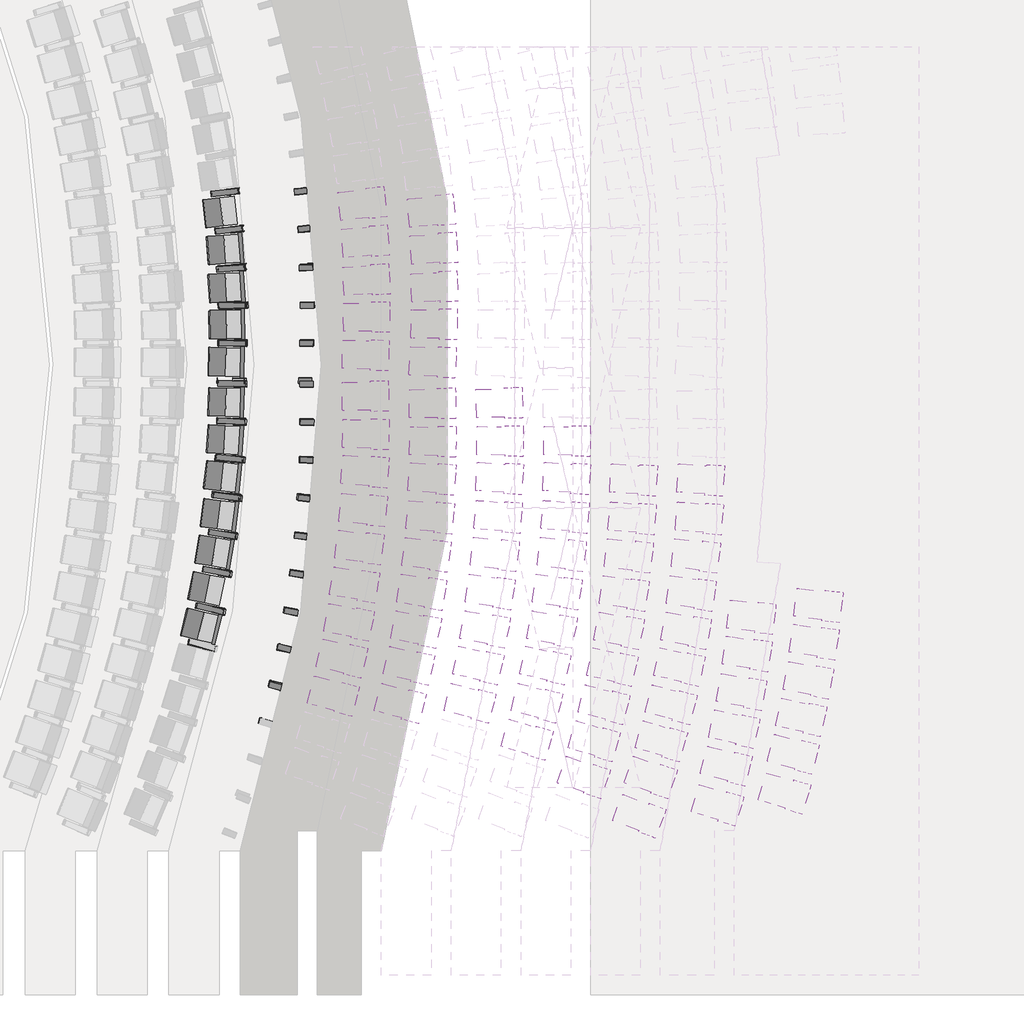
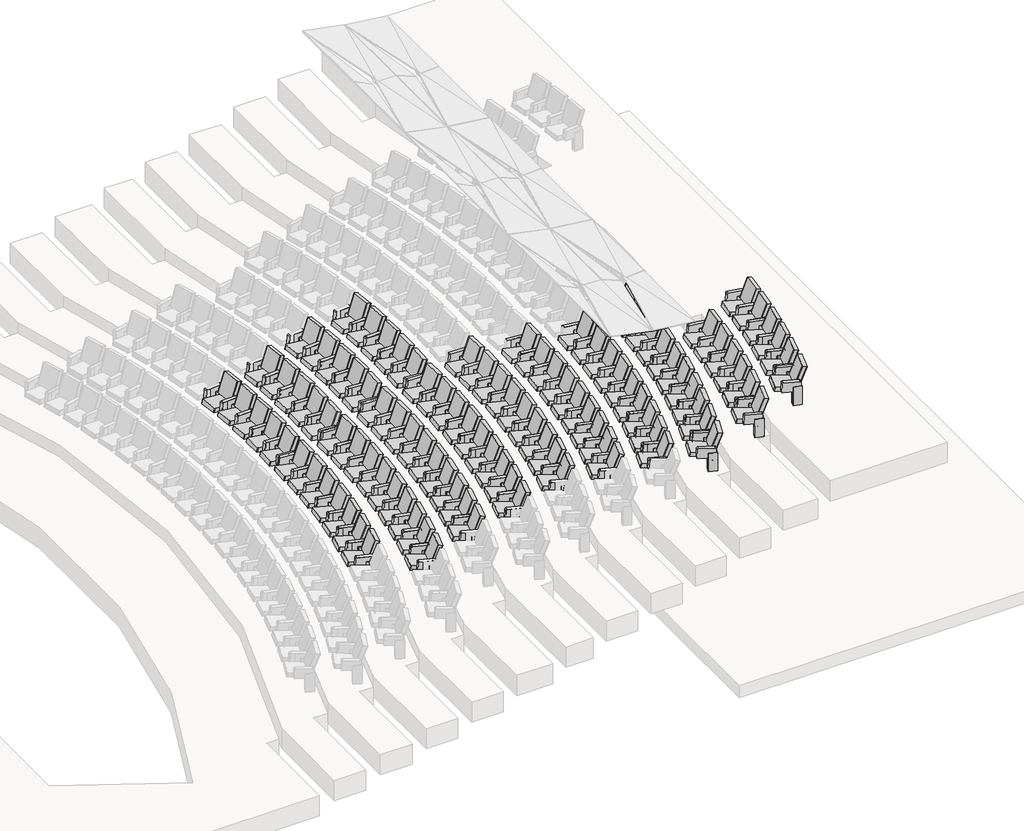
# One storey, part 3 of 5: 103 furniture elements.
"""IFC4 building model written with IfcOpenShell, lengths in millimetres."""

from ifc_helpers import new_model, si_unit, origin, place, context, project, spatial, transform, mapped, element, save
from components import flex_6035_revit_flex_6035_revit_dbd431f0, flex_6035_revit_flex_6035_revit_8256f512

model = new_model("IFC4")

# Units and contexts
model_context = context("Model", 3, world=origin())
ifc_project = project(units=[si_unit("LENGTHUNIT", "METRE", prefix="MILLI")], contexts=[model_context])

# Site, building, storey
site = spatial("IfcSite", under=ifc_project)
building = spatial("IfcBuilding", under=site)
storey = spatial("IfcBuildingStorey", under=building, Name="0 WYSOKI PARTER", Elevation=0.0)

# Furniture
placement = place(None, origin())
flex_6035_revit_flex_6035_revit_shape = flex_6035_revit_flex_6035_revit_dbd431f0(model_context)
element("IfcFurniture", 1, ObjectType="flex_6035 revit : flex_6035 revit", at=placement, inside=storey, context=model_context, shape_type="MappedRepresentation", body=[
    mapped(flex_6035_revit_flex_6035_revit_shape, transform((144010.9490745, 53494.2841804, 791.0), x_axis=(-0.23171197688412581, -0.972784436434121, 0.0), y_axis=(0.972784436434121, -0.23171197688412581, 0.0), z_axis=(0.0, 0.0, 1.0))),
])
element("IfcFurniture", 2, ObjectType="flex_6035 revit : flex_6035 revit", at=placement, inside=storey, context=model_context, shape_type="MappedRepresentation", body=[
    mapped(flex_6035_revit_flex_6035_revit_shape, transform((144115.2846599, 54048.7079398, 791.0), x_axis=(-0.1979858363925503, -0.9802048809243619, 0.0), y_axis=(0.9802048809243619, -0.1979858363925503, 0.0), z_axis=(0.0, 0.0, 1.0))),
])
element("IfcFurniture", 3, ObjectType="flex_6035 revit : flex_6035 revit", at=placement, inside=storey, context=model_context, shape_type="MappedRepresentation", body=[
    mapped(flex_6035_revit_flex_6035_revit_shape, transform((144210.2871399, 54604.5552099, 791.0), x_axis=(-0.1640235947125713, -0.9864564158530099, 0.0), y_axis=(0.9864564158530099, -0.1640235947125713, 0.0), z_axis=(0.0, 0.0, 1.0))),
])
element("IfcFurniture", 4, ObjectType="flex_6035 revit : flex_6035 revit", at=placement, inside=storey, context=model_context, shape_type="MappedRepresentation", body=[
    mapped(flex_6035_revit_flex_6035_revit_shape, transform((144287.5351434, 55163.2995157, 791.0), x_axis=(-0.12986575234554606, -0.991531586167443, 0.0), y_axis=(0.991531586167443, -0.12986575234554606, 0.0), z_axis=(0.0, 0.0, 1.0))),
])
element("IfcFurniture", 5, ObjectType="flex_6035 revit : flex_6035 revit", at=placement, inside=storey, context=model_context, shape_type="MappedRepresentation", body=[
    mapped(flex_6035_revit_flex_6035_revit_shape, transform((144369.8366359, 56288.5683101, 791.0), x_axis=(-0.06112638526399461, -0.9981300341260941, 0.0), y_axis=(0.9981300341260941, -0.06112638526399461, 0.0), z_axis=(0.0, 0.0, 1.0))),
])
element("IfcFurniture", 6, ObjectType="flex_6035 revit : flex_6035 revit", at=placement, inside=storey, context=model_context, shape_type="MappedRepresentation", body=[
    mapped(flex_6035_revit_flex_6035_revit_shape, transform((144335.3537239, 55734.5150126, 791.0), x_axis=(-0.11254136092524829, -0.9936470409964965, 0.0), y_axis=(0.9936470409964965, -0.11254136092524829, 0.0), z_axis=(0.0, 0.0, 1.0))),
])
element("IfcFurniture", 7, ObjectType="flex_6035 revit : flex_6035 revit", at=placement, inside=storey, context=model_context, shape_type="MappedRepresentation", body=[
    mapped(flex_6035_revit_flex_6035_revit_shape, transform((144385.6765789, 56852.4831868, 791.0), x_axis=(-0.026626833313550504, -0.9996454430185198, 0.0), y_axis=(0.9996454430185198, -0.026626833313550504, 0.0), z_axis=(0.0, 0.0, 1.0))),
])
element("IfcFurniture", 8, ObjectType="flex_6035 revit : flex_6035 revit", at=placement, inside=storey, context=model_context, shape_type="MappedRepresentation", body=[
    mapped(flex_6035_revit_flex_6035_revit_shape, transform((144853.4315415, 52376.4737885, 1074.0), x_axis=(-0.2725137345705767, -0.9621518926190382, 0.0), y_axis=(0.9621518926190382, -0.2725137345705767, 0.0), z_axis=(0.0, 0.0, 1.0))),
])
element("IfcFurniture", 9, ObjectType="flex_6035 revit : flex_6035 revit", at=placement, inside=storey, context=model_context, shape_type="MappedRepresentation", body=[
    mapped(flex_6035_revit_flex_6035_revit_shape, transform((145101.3031564, 53476.9420214, 1074.0), x_axis=(-0.2054618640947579, -0.9786651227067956, 0.0), y_axis=(0.9786651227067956, -0.2054618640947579, 0.0), z_axis=(0.0, 0.0, 1.0))),
])
element("IfcFurniture", 10, ObjectType="flex_6035 revit : flex_6035 revit", at=placement, inside=storey, context=model_context, shape_type="MappedRepresentation", body=[
    mapped(flex_6035_revit_flex_6035_revit_shape, transform((145190.6879192, 54033.9716288, 1074.0), x_axis=(-0.17154832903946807, -0.9851757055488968, 0.0), y_axis=(0.9851757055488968, -0.17154832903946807, 0.0), z_axis=(0.0, 0.0, 1.0))),
])
element("IfcFurniture", 11, ObjectType="flex_6035 revit : flex_6035 revit", at=placement, inside=storey, context=model_context, shape_type="MappedRepresentation", body=[
    mapped(flex_6035_revit_flex_6035_revit_shape, transform((145270.7046634, 54592.1731871, 1074.0), x_axis=(-0.13743021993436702, -0.9905114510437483, 0.0), y_axis=(0.9905114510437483, -0.13743021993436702, 0.0), z_axis=(0.0, 0.0, 1.0))),
])
element("IfcFurniture", 12, ObjectType="flex_6035 revit : flex_6035 revit", at=placement, inside=storey, context=model_context, shape_type="MappedRepresentation", body=[
    mapped(flex_6035_revit_flex_6035_revit_shape, transform((145332.8954298, 55152.7931669, 1074.0), x_axis=(-0.10314822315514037, -0.9946659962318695, 0.0), y_axis=(0.9946659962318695, -0.10314822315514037, 0.0), z_axis=(0.0, 0.0, 1.0))),
])
element("IfcFurniture", 13, ObjectType="flex_6035 revit : flex_6035 revit", at=placement, inside=storey, context=model_context, shape_type="MappedRepresentation", body=[
    mapped(flex_6035_revit_flex_6035_revit_shape, transform((145384.899296, 56279.8685829, 1074.0), x_axis=(-0.03425624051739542, -0.9994130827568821, 0.0), y_axis=(0.9994130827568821, -0.03425624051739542, 0.0), z_axis=(0.0, 0.0, 1.0))),
])
element("IfcFurniture", 14, ObjectType="flex_6035 revit : flex_6035 revit", at=placement, inside=storey, context=model_context, shape_type="MappedRepresentation", body=[
    mapped(flex_6035_revit_flex_6035_revit_shape, transform((145365.3319673, 55725.0882234, 1074.0), x_axis=(-0.08577319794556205, -0.9963146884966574, 0.0), y_axis=(0.9963146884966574, -0.08577319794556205, 0.0), z_axis=(0.0, 0.0, 1.0))),
])
element("IfcFurniture", 15, ObjectType="flex_6035 revit : flex_6035 revit", at=placement, inside=storey, context=model_context, shape_type="MappedRepresentation", body=[
    mapped(flex_6035_revit_flex_6035_revit_shape, transform((144989.6153598, 52936.7769492, 1074.0), x_axis=(-0.23876910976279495, -0.9710763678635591, 0.0), y_axis=(0.9710763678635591, -0.23876910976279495, 0.0), z_axis=(0.0, 0.0, 1.0))),
])
element("IfcFurniture", 16, ObjectType="flex_6035 revit : flex_6035 revit", at=placement, inside=storey, context=model_context, shape_type="MappedRepresentation", body=[
    mapped(flex_6035_revit_flex_6035_revit_shape, transform((145385.5651411, 56844.0054888, 1074.0), x_axis=(0.0002715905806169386, -0.9999999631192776, 0.0), y_axis=(0.9999999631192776, 0.0002715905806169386, 0.0), z_axis=(0.0, 0.0, 1.0))),
])
element("IfcFurniture", 17, ObjectType="flex_6035 revit : flex_6035 revit", at=placement, inside=storey, context=model_context, shape_type="MappedRepresentation", body=[
    mapped(flex_6035_revit_flex_6035_revit_shape, transform((145902.85845, 52471.2875369, 1367.0), x_axis=(-0.2618299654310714, -0.9651140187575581, 0.0), y_axis=(0.9651140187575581, -0.2618299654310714, 0.0), z_axis=(0.0, 0.0, 1.0))),
])
element("IfcFurniture", 18, ObjectType="flex_6035 revit : flex_6035 revit", at=placement, inside=storey, context=model_context, shape_type="MappedRepresentation", body=[
    mapped(flex_6035_revit_flex_6035_revit_shape, transform((146138.5143483, 53574.4361972, 1367.0), x_axis=(-0.19459913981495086, -0.9808828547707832, 0.0), y_axis=(0.9808828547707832, -0.19459913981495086, 0.0), z_axis=(0.0, 0.0, 1.0))),
])
element("IfcFurniture", 19, ObjectType="flex_6035 revit : flex_6035 revit", at=placement, inside=storey, context=model_context, shape_type="MappedRepresentation", body=[
    mapped(flex_6035_revit_flex_6035_revit_shape, transform((146221.7180371, 54132.422546, 1367.0), x_axis=(-0.16061550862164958, -0.9870170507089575, 0.0), y_axis=(0.9870170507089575, -0.16061550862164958, 0.0), z_axis=(0.0, 0.0, 1.0))),
])
element("IfcFurniture", 20, ObjectType="flex_6035 revit : flex_6035 revit", at=placement, inside=storey, context=model_context, shape_type="MappedRepresentation", body=[
    mapped(flex_6035_revit_flex_6035_revit_shape, transform((146295.5412902, 54691.4769139, 1367.0), x_axis=(-0.12644034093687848, -0.9919742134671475, 0.0), y_axis=(0.9919742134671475, -0.12644034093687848, 0.0), z_axis=(0.0, 0.0, 1.0))),
])
element("IfcFurniture", 21, ObjectType="flex_6035 revit : flex_6035 revit", at=placement, inside=storey, context=model_context, shape_type="MappedRepresentation", body=[
    mapped(flex_6035_revit_flex_6035_revit_shape, transform((146351.5128488, 55252.7519248, 1367.0), x_axis=(-0.09211439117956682, -0.9957484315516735, 0.0), y_axis=(0.9957484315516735, -0.09211439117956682, 0.0), z_axis=(0.0, 0.0, 1.0))),
])
element("IfcFurniture", 22, ObjectType="flex_6035 revit : flex_6035 revit", at=placement, inside=storey, context=model_context, shape_type="MappedRepresentation", body=[
    mapped(flex_6035_revit_flex_6035_revit_shape, transform((146391.0180522, 56380.3346199, 1367.0), x_axis=(-0.02317401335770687, -0.9997314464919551, 0.0), y_axis=(0.9997314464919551, -0.02317401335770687, 0.0), z_axis=(0.0, 0.0, 1.0))),
])
element("IfcFurniture", 23, ObjectType="flex_6035 revit : flex_6035 revit", at=placement, inside=storey, context=model_context, shape_type="MappedRepresentation", body=[
    mapped(flex_6035_revit_flex_6035_revit_shape, transform((146377.60257, 55825.3714207, 1367.0), x_axis=(-0.07472215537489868, -0.997204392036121, 0.0), y_axis=(0.997204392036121, -0.07472215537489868, 0.0), z_axis=(0.0, 0.0, 1.0))),
])
element("IfcFurniture", 24, ObjectType="flex_6035 revit : flex_6035 revit", at=placement, inside=storey, context=model_context, shape_type="MappedRepresentation", body=[
    mapped(flex_6035_revit_flex_6035_revit_shape, transform((146032.8220254, 53033.0660816, 1367.0), x_axis=(-0.22798847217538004, -0.973663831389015, 0.0), y_axis=(0.973663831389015, -0.22798847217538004, 0.0), z_axis=(0.0, 0.0, 1.0))),
])
element("IfcFurniture", 25, ObjectType="flex_6035 revit : flex_6035 revit", at=placement, inside=storey, context=model_context, shape_type="MappedRepresentation", body=[
    mapped(flex_6035_revit_flex_6035_revit_shape, transform((146385.42948, 56944.4442367, 1367.0), x_axis=(0.011358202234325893, -0.9999354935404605, 0.0), y_axis=(0.9999354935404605, 0.011358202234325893, 0.0), z_axis=(0.0, 0.0, 1.0))),
])
element("IfcFurniture", 26, ObjectType="flex_6035 revit : flex_6035 revit", at=placement, inside=storey, context=model_context, shape_type="MappedRepresentation", body=[
    mapped(flex_6035_revit_flex_6035_revit_shape, transform((146903.0115337, 52362.9838282, 1668.0), x_axis=(-0.2618299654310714, -0.9651140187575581, 0.0), y_axis=(0.9651140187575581, -0.2618299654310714, 0.0), z_axis=(0.0, 0.0, 1.0))),
])
element("IfcFurniture", 27, ObjectType="flex_6035 revit : flex_6035 revit", at=placement, inside=storey, context=model_context, shape_type="MappedRepresentation", body=[
    mapped(flex_6035_revit_flex_6035_revit_shape, transform((147138.667432, 53466.1324885, 1668.0), x_axis=(-0.19459913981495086, -0.9808828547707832, 0.0), y_axis=(0.9808828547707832, -0.19459913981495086, 0.0), z_axis=(0.0, 0.0, 1.0))),
])
element("IfcFurniture", 28, ObjectType="flex_6035 revit : flex_6035 revit", at=placement, inside=storey, context=model_context, shape_type="MappedRepresentation", body=[
    mapped(flex_6035_revit_flex_6035_revit_shape, transform((147221.8711209, 54024.1188373, 1668.0), x_axis=(-0.16061550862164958, -0.9870170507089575, 0.0), y_axis=(0.9870170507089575, -0.16061550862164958, 0.0), z_axis=(0.0, 0.0, 1.0))),
])
element("IfcFurniture", 29, ObjectType="flex_6035 revit : flex_6035 revit", at=placement, inside=storey, context=model_context, shape_type="MappedRepresentation", body=[
    mapped(flex_6035_revit_flex_6035_revit_shape, transform((147295.6943739, 54583.1732052, 1668.0), x_axis=(-0.12644034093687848, -0.9919742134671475, 0.0), y_axis=(0.9919742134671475, -0.12644034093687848, 0.0), z_axis=(0.0, 0.0, 1.0))),
])
element("IfcFurniture", 30, ObjectType="flex_6035 revit : flex_6035 revit", at=placement, inside=storey, context=model_context, shape_type="MappedRepresentation", body=[
    mapped(flex_6035_revit_flex_6035_revit_shape, transform((147351.6659326, 55144.4482161, 1668.0), x_axis=(-0.09211439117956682, -0.9957484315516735, 0.0), y_axis=(0.9957484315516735, -0.09211439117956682, 0.0), z_axis=(0.0, 0.0, 1.0))),
])
element("IfcFurniture", 31, ObjectType="flex_6035 revit : flex_6035 revit", at=placement, inside=storey, context=model_context, shape_type="MappedRepresentation", body=[
    mapped(flex_6035_revit_flex_6035_revit_shape, transform((147391.171136, 56272.0309112, 1668.0), x_axis=(-0.02317401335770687, -0.9997314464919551, 0.0), y_axis=(0.9997314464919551, -0.02317401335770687, 0.0), z_axis=(0.0, 0.0, 1.0))),
])
element("IfcFurniture", 32, ObjectType="flex_6035 revit : flex_6035 revit", at=placement, inside=storey, context=model_context, shape_type="MappedRepresentation", body=[
    mapped(flex_6035_revit_flex_6035_revit_shape, transform((147377.7556538, 55717.067712, 1668.0), x_axis=(-0.07472215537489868, -0.997204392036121, 0.0), y_axis=(0.997204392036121, -0.07472215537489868, 0.0), z_axis=(0.0, 0.0, 1.0))),
])
element("IfcFurniture", 33, ObjectType="flex_6035 revit : flex_6035 revit", at=placement, inside=storey, context=model_context, shape_type="MappedRepresentation", body=[
    mapped(flex_6035_revit_flex_6035_revit_shape, transform((147032.9751092, 52924.7623728, 1668.0), x_axis=(-0.22798847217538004, -0.973663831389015, 0.0), y_axis=(0.973663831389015, -0.22798847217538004, 0.0), z_axis=(0.0, 0.0, 1.0))),
])
element("IfcFurniture", 34, ObjectType="flex_6035 revit : flex_6035 revit", at=placement, inside=storey, context=model_context, shape_type="MappedRepresentation", body=[
    mapped(flex_6035_revit_flex_6035_revit_shape, transform((147385.5825637, 56836.140528, 1668.0), x_axis=(0.011358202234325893, -0.9999354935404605, 0.0), y_axis=(0.9999354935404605, 0.011358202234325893, 0.0), z_axis=(0.0, 0.0, 1.0))),
])
element("IfcFurniture", 35, ObjectType="flex_6035 revit : flex_6035 revit", at=placement, inside=storey, context=model_context, shape_type="MappedRepresentation", body=[
    mapped(flex_6035_revit_flex_6035_revit_shape, transform((147941.9913426, 52364.7237388, 1977.0), x_axis=(-0.2528925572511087, -0.9674943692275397, 0.0), y_axis=(0.9674943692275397, -0.2528925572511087, 0.0), z_axis=(0.0, 0.0, 1.0))),
])
element("IfcFurniture", 36, ObjectType="flex_6035 revit : flex_6035 revit", at=placement, inside=storey, context=model_context, shape_type="MappedRepresentation", body=[
    mapped(flex_6035_revit_flex_6035_revit_shape, transform((148167.4342885, 53470.0047652, 1977.0), x_axis=(-0.18551876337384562, -0.9826407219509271, 0.0), y_axis=(0.9826407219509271, -0.18551876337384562, 0.0), z_axis=(0.0, 0.0, 1.0))),
])
element("IfcFurniture", 37, ObjectType="flex_6035 revit : flex_6035 revit", at=placement, inside=storey, context=model_context, shape_type="MappedRepresentation", body=[
    mapped(flex_6035_revit_flex_6035_revit_shape, transform((148245.4736782, 54028.7367877, 1977.0), x_axis=(-0.15147985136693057, -0.9884603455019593, 0.0), y_axis=(0.9884603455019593, -0.15147985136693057, 0.0), z_axis=(0.0, 0.0, 1.0))),
])
element("IfcFurniture", 38, ObjectType="flex_6035 revit : flex_6035 revit", at=placement, inside=storey, context=model_context, shape_type="MappedRepresentation", body=[
    mapped(flex_6035_revit_flex_6035_revit_shape, transform((148314.1231553, 54588.4500252, 1977.0), x_axis=(-0.1172602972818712, -0.9931012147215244, 0.0), y_axis=(0.9931012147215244, -0.1172602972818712, 0.0), z_axis=(0.0, 0.0, 1.0))),
])
element("IfcFurniture", 39, ObjectType="flex_6035 revit : flex_6035 revit", at=placement, inside=storey, context=model_context, shape_type="MappedRepresentation", body=[
    mapped(flex_6035_revit_flex_6035_revit_shape, transform((148364.9011631, 55150.2187028, 1977.0), x_axis=(-0.08290090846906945, -0.9965577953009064, 0.0), y_axis=(0.9965577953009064, -0.08290090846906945, 0.0), z_axis=(0.0, 0.0, 1.0))),
])
element("IfcFurniture", 40, ObjectType="flex_6035 revit : flex_6035 revit", at=placement, inside=storey, context=model_context, shape_type="MappedRepresentation", body=[
    mapped(flex_6035_revit_flex_6035_revit_shape, transform((148393.9758167, 56278.1185476, 1977.0), x_axis=(-0.013926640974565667, -0.999903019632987, 0.0), y_axis=(0.999903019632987, -0.013926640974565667, 0.0), z_axis=(0.0, 0.0, 1.0))),
])
element("IfcFurniture", 41, ObjectType="flex_6035 revit : flex_6035 revit", at=placement, inside=storey, context=model_context, shape_type="MappedRepresentation", body=[
    mapped(flex_6035_revit_flex_6035_revit_shape, transform((148385.693688, 55723.0550071, 1977.0), x_axis=(-0.0654959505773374, -0.9978528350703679, 0.0), y_axis=(0.9978528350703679, -0.0654959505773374, 0.0), z_axis=(0.0, 0.0, 1.0))),
])
element("IfcFurniture", 42, ObjectType="flex_6035 revit : flex_6035 revit", at=placement, inside=storey, context=model_context, shape_type="MappedRepresentation", body=[
    mapped(flex_6035_revit_flex_6035_revit_shape, transform((148066.7535454, 52927.6802708, 1977.0), x_axis=(-0.21897343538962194, -0.9757308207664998, 0.0), y_axis=(0.9757308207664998, -0.21897343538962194, 0.0), z_axis=(0.0, 0.0, 1.0))),
])
element("IfcFurniture", 43, ObjectType="flex_6035 revit : flex_6035 revit", at=placement, inside=storey, context=model_context, shape_type="MappedRepresentation", body=[
    mapped(flex_6035_revit_flex_6035_revit_shape, transform((148383.1701098, 56842.1523486, 1977.0), x_axis=(0.02060598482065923, -0.999787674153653, 0.0), y_axis=(0.999787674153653, 0.02060598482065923, 0.0), z_axis=(0.0, 0.0, 1.0))),
])
element("IfcFurniture", 44, ObjectType="flex_6035 revit : flex_6035 revit", at=placement, inside=storey, context=model_context, shape_type="MappedRepresentation", body=[
    mapped(flex_6035_revit_flex_6035_revit_shape, transform((148794.8587046, 51820.069524, 2293.0), x_axis=(-0.2861470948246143, -0.9581857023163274, 0.0), y_axis=(0.9581857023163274, -0.2861470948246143, 0.0), z_axis=(0.0, 0.0, 1.0))),
])
element("IfcFurniture", 45, ObjectType="flex_6035 revit : flex_6035 revit", at=placement, inside=storey, context=model_context, shape_type="MappedRepresentation", body=[
    mapped(flex_6035_revit_flex_6035_revit_shape, transform((148941.0379663, 52364.7237388, 2293.0), x_axis=(-0.2528925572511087, -0.9674943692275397, 0.0), y_axis=(0.9674943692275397, -0.2528925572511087, 0.0), z_axis=(0.0, 0.0, 1.0))),
])
element("IfcFurniture", 46, ObjectType="flex_6035 revit : flex_6035 revit", at=placement, inside=storey, context=model_context, shape_type="MappedRepresentation", body=[
    mapped(flex_6035_revit_flex_6035_revit_shape, transform((149166.4809121, 53470.0047652, 2293.0), x_axis=(-0.18551876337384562, -0.9826407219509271, 0.0), y_axis=(0.9826407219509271, -0.18551876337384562, 0.0), z_axis=(0.0, 0.0, 1.0))),
])
element("IfcFurniture", 47, ObjectType="flex_6035 revit : flex_6035 revit", at=placement, inside=storey, context=model_context, shape_type="MappedRepresentation", body=[
    mapped(flex_6035_revit_flex_6035_revit_shape, transform((149244.5203018, 54028.7367877, 2293.0), x_axis=(-0.15147985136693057, -0.9884603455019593, 0.0), y_axis=(0.9884603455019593, -0.15147985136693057, 0.0), z_axis=(0.0, 0.0, 1.0))),
])
element("IfcFurniture", 48, ObjectType="flex_6035 revit : flex_6035 revit", at=placement, inside=storey, context=model_context, shape_type="MappedRepresentation", body=[
    mapped(flex_6035_revit_flex_6035_revit_shape, transform((149313.1697789, 54588.4500252, 2293.0), x_axis=(-0.1172602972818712, -0.9931012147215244, 0.0), y_axis=(0.9931012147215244, -0.1172602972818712, 0.0), z_axis=(0.0, 0.0, 1.0))),
])
element("IfcFurniture", 49, ObjectType="flex_6035 revit : flex_6035 revit", at=placement, inside=storey, context=model_context, shape_type="MappedRepresentation", body=[
    mapped(flex_6035_revit_flex_6035_revit_shape, transform((149363.9477868, 55150.2187028, 2293.0), x_axis=(-0.08290090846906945, -0.9965577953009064, 0.0), y_axis=(0.9965577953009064, -0.08290090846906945, 0.0), z_axis=(0.0, 0.0, 1.0))),
])
element("IfcFurniture", 50, ObjectType="flex_6035 revit : flex_6035 revit", at=placement, inside=storey, context=model_context, shape_type="MappedRepresentation", body=[
    mapped(flex_6035_revit_flex_6035_revit_shape, transform((149393.0224403, 56278.1185476, 2293.0), x_axis=(-0.013926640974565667, -0.999903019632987, 0.0), y_axis=(0.999903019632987, -0.013926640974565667, 0.0), z_axis=(0.0, 0.0, 1.0))),
])
element("IfcFurniture", 51, ObjectType="flex_6035 revit : flex_6035 revit", at=placement, inside=storey, context=model_context, shape_type="MappedRepresentation", body=[
    mapped(flex_6035_revit_flex_6035_revit_shape, transform((149384.7403116, 55723.0550071, 2293.0), x_axis=(-0.0654959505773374, -0.9978528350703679, 0.0), y_axis=(0.9978528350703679, -0.0654959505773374, 0.0), z_axis=(0.0, 0.0, 1.0))),
])
element("IfcFurniture", 52, ObjectType="flex_6035 revit : flex_6035 revit", at=placement, inside=storey, context=model_context, shape_type="MappedRepresentation", body=[
    mapped(flex_6035_revit_flex_6035_revit_shape, transform((149065.800169, 52927.6802708, 2293.0), x_axis=(-0.21897343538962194, -0.9757308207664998, 0.0), y_axis=(0.9757308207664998, -0.21897343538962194, 0.0), z_axis=(0.0, 0.0, 1.0))),
])
element("IfcFurniture", 53, ObjectType="flex_6035 revit : flex_6035 revit", at=placement, inside=storey, context=model_context, shape_type="MappedRepresentation", body=[
    mapped(flex_6035_revit_flex_6035_revit_shape, transform((149638.6681206, 51255.6715035, 2616.0), x_axis=(-0.31906039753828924, -0.947734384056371, 0.0), y_axis=(0.947734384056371, -0.31906039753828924, 0.0), z_axis=(0.0, 0.0, 1.0))),
])
element("IfcFurniture", 54, ObjectType="flex_6035 revit : flex_6035 revit", at=placement, inside=storey, context=model_context, shape_type="MappedRepresentation", body=[
    mapped(flex_6035_revit_flex_6035_revit_shape, transform((149794.610182, 51797.776402, 2616.0), x_axis=(-0.2861470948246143, -0.9581857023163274, 0.0), y_axis=(0.9581857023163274, -0.2861470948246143, 0.0), z_axis=(0.0, 0.0, 1.0))),
])
element("IfcFurniture", 55, ObjectType="flex_6035 revit : flex_6035 revit", at=placement, inside=storey, context=model_context, shape_type="MappedRepresentation", body=[
    mapped(flex_6035_revit_flex_6035_revit_shape, transform((149940.7894437, 52342.4306167, 2616.0), x_axis=(-0.2528925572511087, -0.9674943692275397, 0.0), y_axis=(0.9674943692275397, -0.2528925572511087, 0.0), z_axis=(0.0, 0.0, 1.0))),
])
element("IfcFurniture", 56, ObjectType="flex_6035 revit : flex_6035 revit", at=placement, inside=storey, context=model_context, shape_type="MappedRepresentation", body=[
    mapped(flex_6035_revit_flex_6035_revit_shape, transform((150166.2323896, 53447.7116431, 2616.0), x_axis=(-0.18551876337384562, -0.9826407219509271, 0.0), y_axis=(0.9826407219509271, -0.18551876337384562, 0.0), z_axis=(0.0, 0.0, 1.0))),
])
element("IfcFurniture", 57, ObjectType="flex_6035 revit : flex_6035 revit", at=placement, inside=storey, context=model_context, shape_type="MappedRepresentation", body=[
    mapped(flex_6035_revit_flex_6035_revit_shape, transform((150244.2717793, 54006.4436656, 2616.0), x_axis=(-0.15147985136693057, -0.9884603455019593, 0.0), y_axis=(0.9884603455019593, -0.15147985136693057, 0.0), z_axis=(0.0, 0.0, 1.0))),
])
element("IfcFurniture", 58, ObjectType="flex_6035 revit : flex_6035 revit", at=placement, inside=storey, context=model_context, shape_type="MappedRepresentation", body=[
    mapped(flex_6035_revit_flex_6035_revit_shape, transform((150312.9212564, 54566.1569031, 2616.0), x_axis=(-0.1172602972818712, -0.9931012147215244, 0.0), y_axis=(0.9931012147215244, -0.1172602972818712, 0.0), z_axis=(0.0, 0.0, 1.0))),
])
element("IfcFurniture", 59, ObjectType="flex_6035 revit : flex_6035 revit", at=placement, inside=storey, context=model_context, shape_type="MappedRepresentation", body=[
    mapped(flex_6035_revit_flex_6035_revit_shape, transform((150363.6992642, 55127.9255808, 2616.0), x_axis=(-0.08290090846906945, -0.9965577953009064, 0.0), y_axis=(0.9965577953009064, -0.08290090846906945, 0.0), z_axis=(0.0, 0.0, 1.0))),
])
element("IfcFurniture", 60, ObjectType="flex_6035 revit : flex_6035 revit", at=placement, inside=storey, context=model_context, shape_type="MappedRepresentation", body=[
    mapped(flex_6035_revit_flex_6035_revit_shape, transform((150384.4917891, 55700.7618851, 2616.0), x_axis=(-0.0654959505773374, -0.9978528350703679, 0.0), y_axis=(0.9978528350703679, -0.0654959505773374, 0.0), z_axis=(0.0, 0.0, 1.0))),
])
element("IfcFurniture", 61, ObjectType="flex_6035 revit : flex_6035 revit", at=placement, inside=storey, context=model_context, shape_type="MappedRepresentation", body=[
    mapped(flex_6035_revit_flex_6035_revit_shape, transform((150065.5516465, 52905.3871488, 2616.0), x_axis=(-0.21897343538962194, -0.9757308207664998, 0.0), y_axis=(0.9757308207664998, -0.21897343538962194, 0.0), z_axis=(0.0, 0.0, 1.0))),
])
element("IfcFurniture", 62, ObjectType="flex_6035 revit : flex_6035 revit", at=placement, inside=storey, context=model_context, shape_type="MappedRepresentation", body=[
    mapped(flex_6035_revit_flex_6035_revit_shape, transform((150638.9079334, 51255.6715035, 2945.0), x_axis=(-0.31906039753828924, -0.947734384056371, 0.0), y_axis=(0.947734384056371, -0.31906039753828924, 0.0), z_axis=(0.0, 0.0, 1.0))),
])
element("IfcFurniture", 63, ObjectType="flex_6035 revit : flex_6035 revit", at=placement, inside=storey, context=model_context, shape_type="MappedRepresentation", body=[
    mapped(flex_6035_revit_flex_6035_revit_shape, transform((150794.8499948, 51797.776402, 2945.0), x_axis=(-0.2861470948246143, -0.9581857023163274, 0.0), y_axis=(0.9581857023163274, -0.2861470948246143, 0.0), z_axis=(0.0, 0.0, 1.0))),
])
element("IfcFurniture", 64, ObjectType="flex_6035 revit : flex_6035 revit", at=placement, inside=storey, context=model_context, shape_type="MappedRepresentation", body=[
    mapped(flex_6035_revit_flex_6035_revit_shape, transform((150941.0292565, 52342.4306167, 2945.0), x_axis=(-0.2528925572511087, -0.9674943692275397, 0.0), y_axis=(0.9674943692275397, -0.2528925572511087, 0.0), z_axis=(0.0, 0.0, 1.0))),
])
element("IfcFurniture", 65, ObjectType="flex_6035 revit : flex_6035 revit", at=placement, inside=storey, context=model_context, shape_type="MappedRepresentation", body=[
    mapped(flex_6035_revit_flex_6035_revit_shape, transform((151166.4722024, 53447.7116431, 2945.0), x_axis=(-0.18551876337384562, -0.9826407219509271, 0.0), y_axis=(0.9826407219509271, -0.18551876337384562, 0.0), z_axis=(0.0, 0.0, 1.0))),
])
element("IfcFurniture", 66, ObjectType="flex_6035 revit : flex_6035 revit", at=placement, inside=storey, context=model_context, shape_type="MappedRepresentation", body=[
    mapped(flex_6035_revit_flex_6035_revit_shape, transform((151244.511592, 54006.4436656, 2945.0), x_axis=(-0.15147985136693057, -0.9884603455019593, 0.0), y_axis=(0.9884603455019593, -0.15147985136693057, 0.0), z_axis=(0.0, 0.0, 1.0))),
])
element("IfcFurniture", 67, ObjectType="flex_6035 revit : flex_6035 revit", at=placement, inside=storey, context=model_context, shape_type="MappedRepresentation", body=[
    mapped(flex_6035_revit_flex_6035_revit_shape, transform((151313.1610692, 54566.1569031, 2945.0), x_axis=(-0.1172602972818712, -0.9931012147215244, 0.0), y_axis=(0.9931012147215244, -0.1172602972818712, 0.0), z_axis=(0.0, 0.0, 1.0))),
])
element("IfcFurniture", 68, ObjectType="flex_6035 revit : flex_6035 revit", at=placement, inside=storey, context=model_context, shape_type="MappedRepresentation", body=[
    mapped(flex_6035_revit_flex_6035_revit_shape, transform((151363.939077, 55127.9255808, 2945.0), x_axis=(-0.08290090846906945, -0.9965577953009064, 0.0), y_axis=(0.9965577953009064, -0.08290090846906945, 0.0), z_axis=(0.0, 0.0, 1.0))),
])
element("IfcFurniture", 69, ObjectType="flex_6035 revit : flex_6035 revit", at=placement, inside=storey, context=model_context, shape_type="MappedRepresentation", body=[
    mapped(flex_6035_revit_flex_6035_revit_shape, transform((151384.7316019, 55700.7618851, 2945.0), x_axis=(-0.0654959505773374, -0.9978528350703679, 0.0), y_axis=(0.9978528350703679, -0.0654959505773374, 0.0), z_axis=(0.0, 0.0, 1.0))),
])
element("IfcFurniture", 70, ObjectType="flex_6035 revit : flex_6035 revit", at=placement, inside=storey, context=model_context, shape_type="MappedRepresentation", body=[
    mapped(flex_6035_revit_flex_6035_revit_shape, transform((151065.7914593, 52905.3871488, 2945.0), x_axis=(-0.21897343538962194, -0.9757308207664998, 0.0), y_axis=(0.9757308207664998, -0.21897343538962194, 0.0), z_axis=(0.0, 0.0, 1.0))),
])
element("IfcFurniture", 71, ObjectType="flex_6035 revit : flex_6035 revit", at=placement, inside=storey, context=model_context, shape_type="MappedRepresentation", body=[
    mapped(flex_6035_revit_flex_6035_revit_shape, transform((150466.2257526, 50679.4323005, 2945.0), x_axis=(-0.35297977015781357, -0.9356309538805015, 0.0), y_axis=(0.9356309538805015, -0.35297977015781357, 0.0), z_axis=(0.0, 0.0, 1.0))),
])
element("IfcFurniture", 72, ObjectType="flex_6035 revit : flex_6035 revit", at=placement, inside=storey, context=model_context, shape_type="MappedRepresentation", body=[
    mapped(flex_6035_revit_flex_6035_revit_shape, transform((151765.1104753, 51428.4897654, 3280.0), x_axis=(-0.25286461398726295, -0.9675016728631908, 0.0), y_axis=(0.9675016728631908, -0.25286461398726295, 0.0), z_axis=(0.0, 0.0, 1.0))),
])
element("IfcFurniture", 73, ObjectType="flex_6035 revit : flex_6035 revit", at=placement, inside=storey, context=model_context, shape_type="MappedRepresentation", body=[
    mapped(flex_6035_revit_flex_6035_revit_shape, transform((151883.2518728, 51980.067736, 3280.0), x_axis=(-0.2193082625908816, -0.975655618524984, 0.0), y_axis=(0.975655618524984, -0.2193082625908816, 0.0), z_axis=(0.0, 0.0, 1.0))),
])
element("IfcFurniture", 74, ObjectType="flex_6035 revit : flex_6035 revit", at=placement, inside=storey, context=model_context, shape_type="MappedRepresentation", body=[
    mapped(flex_6035_revit_flex_6035_revit_shape, transform((151991.4777553, 52533.5148867, 3280.0), x_axis=(-0.18549038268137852, -0.9826460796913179, 0.0), y_axis=(0.9826460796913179, -0.18549038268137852, 0.0), z_axis=(0.0, 0.0, 1.0))),
])
element("IfcFurniture", 75, ObjectType="flex_6035 revit : flex_6035 revit", at=placement, inside=storey, context=model_context, shape_type="MappedRepresentation", body=[
    mapped(flex_6035_revit_flex_6035_revit_shape, transform((152140.0708287, 53651.7236184, 3280.0), x_axis=(-0.11723161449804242, -0.9931046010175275, 0.0), y_axis=(0.9931046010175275, -0.11723161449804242, 0.0), z_axis=(0.0, 0.0, 1.0))),
])
element("IfcFurniture", 76, ObjectType="flex_6035 revit : flex_6035 revit", at=placement, inside=storey, context=model_context, shape_type="MappedRepresentation", body=[
    mapped(flex_6035_revit_flex_6035_revit_shape, transform((152077.0740402, 53103.7419819, 3280.0), x_axis=(-0.15108353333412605, -0.9885209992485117, 0.0), y_axis=(0.9885209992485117, -0.15108353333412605, 0.0), z_axis=(0.0, 0.0, 1.0))),
])
element("IfcFurniture", 77, ObjectType="flex_6035 revit : flex_6035 revit", at=placement, inside=storey, context=model_context, shape_type="MappedRepresentation", body=[
    mapped(flex_6035_revit_flex_6035_revit_shape, transform((151632.6256396, 50841.7031577, 3280.0), x_axis=(-0.2875387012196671, -0.9577690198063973, 0.0), y_axis=(0.9577690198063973, -0.2875387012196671, 0.0), z_axis=(0.0, 0.0, 1.0))),
])
element("IfcFurniture", 78, ObjectType="flex_6035 revit : flex_6035 revit", at=placement, inside=storey, context=model_context, shape_type="MappedRepresentation", body=[
    mapped(flex_6035_revit_flex_6035_revit_shape, transform((152765.8459892, 51604.9464371, 3620.0), x_axis=(-0.25286461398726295, -0.9675016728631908, 0.0), y_axis=(0.9675016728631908, -0.25286461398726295, 0.0), z_axis=(0.0, 0.0, 1.0))),
])
element("IfcFurniture", 79, ObjectType="flex_6035 revit : flex_6035 revit", at=placement, inside=storey, context=model_context, shape_type="MappedRepresentation", body=[
    mapped(flex_6035_revit_flex_6035_revit_shape, transform((152883.9873867, 52156.5244077, 3620.0), x_axis=(-0.2193082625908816, -0.975655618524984, 0.0), y_axis=(0.975655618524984, -0.2193082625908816, 0.0), z_axis=(0.0, 0.0, 1.0))),
])
element("IfcFurniture", 80, ObjectType="flex_6035 revit : flex_6035 revit", at=placement, inside=storey, context=model_context, shape_type="MappedRepresentation", body=[
    mapped(flex_6035_revit_flex_6035_revit_shape, transform((152992.2132692, 52709.9715583, 3620.0), x_axis=(-0.18549038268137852, -0.9826460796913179, 0.0), y_axis=(0.9826460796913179, -0.18549038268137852, 0.0), z_axis=(0.0, 0.0, 1.0))),
])
element("IfcFurniture", 81, ObjectType="flex_6035 revit : flex_6035 revit", at=placement, inside=storey, context=model_context, shape_type="MappedRepresentation", body=[
    mapped(flex_6035_revit_flex_6035_revit_shape, transform((153140.8063426, 53828.18029, 3620.0), x_axis=(-0.11723161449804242, -0.9931046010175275, 0.0), y_axis=(0.9931046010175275, -0.11723161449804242, 0.0), z_axis=(0.0, 0.0, 1.0))),
])
element("IfcFurniture", 82, ObjectType="flex_6035 revit : flex_6035 revit", at=placement, inside=storey, context=model_context, shape_type="MappedRepresentation", body=[
    mapped(flex_6035_revit_flex_6035_revit_shape, transform((153077.8095541, 53280.1986536, 3620.0), x_axis=(-0.15108353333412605, -0.9885209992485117, 0.0), y_axis=(0.9885209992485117, -0.15108353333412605, 0.0), z_axis=(0.0, 0.0, 1.0))),
])
element("IfcFurniture", 83, ObjectType="flex_6035 revit : flex_6035 revit", at=placement, inside=storey, context=model_context, shape_type="MappedRepresentation", body=[
    mapped(flex_6035_revit_flex_6035_revit_shape, transform((152633.3611535, 51018.1598293, 3620.0), x_axis=(-0.2875387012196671, -0.9577690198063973, 0.0), y_axis=(0.9577690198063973, -0.2875387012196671, 0.0), z_axis=(0.0, 0.0, 1.0))),
])
flex_6035_revit_flex_6035_revit_2_shape = flex_6035_revit_flex_6035_revit_8256f512(model_context)
element("IfcFurniture", 84, ObjectType="flex_6035 revit : flex_6035 revit", at=placement, inside=storey, context=model_context, shape_type="MappedRepresentation", body=[
    mapped(flex_6035_revit_flex_6035_revit_2_shape, transform((144322.0934436, 59707.7257307, 791.0), x_axis=(-0.11550199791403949, 0.9933072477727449, 0.0), y_axis=(-0.9933072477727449, -0.11550199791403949, 0.0), z_axis=(0.0, 0.0, 1.0))),
])
element("IfcFurniture", 85, ObjectType="flex_6035 revit : flex_6035 revit", at=placement, inside=storey, context=model_context, shape_type="MappedRepresentation", body=[
    mapped(flex_6035_revit_flex_6035_revit_2_shape, transform((144371.8768567, 59145.8680397, 791.0), x_axis=(-0.08113654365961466, 0.9967029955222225, 0.0), y_axis=(-0.9967029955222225, -0.08113654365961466, 0.0), z_axis=(0.0, 0.0, 1.0))),
])
element("IfcFurniture", 86, ObjectType="flex_6035 revit : flex_6035 revit", at=placement, inside=storey, context=model_context, shape_type="MappedRepresentation", body=[
    mapped(flex_6035_revit_flex_6035_revit_2_shape, transform((144398.9547112, 58017.9184906, 791.0), x_axis=(-0.012156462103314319, 0.9999261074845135, 0.0), y_axis=(-0.9999261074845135, -0.012156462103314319, 0.0), z_axis=(0.0, 0.0, 1.0))),
])
element("IfcFurniture", 87, ObjectType="flex_6035 revit : flex_6035 revit", at=placement, inside=storey, context=model_context, shape_type="MappedRepresentation", body=[
    mapped(flex_6035_revit_flex_6035_revit_2_shape, transform((144391.6552404, 58572.9958234, 791.0), x_axis=(-0.06372932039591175, 0.9979672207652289, 0.0), y_axis=(-0.9979672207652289, -0.06372932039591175, 0.0), z_axis=(0.0, 0.0, 1.0))),
])
element("IfcFurniture", 88, ObjectType="flex_6035 revit : flex_6035 revit", at=placement, inside=storey, context=model_context, shape_type="MappedRepresentation", body=[
    mapped(flex_6035_revit_flex_6035_revit_2_shape, transform((144387.150496, 57453.9047032, 791.0), x_axis=(0.02237590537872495, 0.9997496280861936, 0.0), y_axis=(-0.9997496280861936, 0.02237590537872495, 0.0), z_axis=(0.0, 0.0, 1.0))),
])
element("IfcFurniture", 89, ObjectType="flex_6035 revit : flex_6035 revit", at=placement, inside=storey, context=model_context, shape_type="MappedRepresentation", body=[
    mapped(flex_6035_revit_flex_6035_revit_2_shape, transform((145330.9616634, 59711.6381544, 1074.0), x_axis=(-0.1051046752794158, 0.9944611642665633, 0.0), y_axis=(-0.9944611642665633, -0.1051046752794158, 0.0), z_axis=(0.0, 0.0, 1.0))),
])
element("IfcFurniture", 90, ObjectType="flex_6035 revit : flex_6035 revit", at=placement, inside=storey, context=model_context, shape_type="MappedRepresentation", body=[
    mapped(flex_6035_revit_flex_6035_revit_2_shape, transform((145374.8647504, 59149.290422, 1074.0), x_axis=(-0.07070557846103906, 0.9974972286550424, 0.0), y_axis=(-0.9974972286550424, -0.07070557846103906, 0.0), z_axis=(0.0, 0.0, 1.0))),
])
element("IfcFurniture", 91, ObjectType="flex_6035 revit : flex_6035 revit", at=placement, inside=storey, context=model_context, shape_type="MappedRepresentation", body=[
    mapped(flex_6035_revit_flex_6035_revit_2_shape, transform((145390.1416254, 58021.1193301, 1074.0), x_axis=(-0.0016955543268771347, 0.9999985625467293, 0.0), y_axis=(-0.9999985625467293, -0.0016955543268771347, 0.0), z_axis=(0.0, 0.0, 1.0))),
])
element("IfcFurniture", 92, ObjectType="flex_6035 revit : flex_6035 revit", at=placement, inside=storey, context=model_context, shape_type="MappedRepresentation", body=[
    mapped(flex_6035_revit_flex_6035_revit_2_shape, transform((145388.6492267, 58576.2426501, 1074.0), x_axis=(-0.05328608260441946, 0.9985792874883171, 0.0), y_axis=(-0.9985792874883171, -0.05328608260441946, 0.0), z_axis=(0.0, 0.0, 1.0))),
])
element("IfcFurniture", 93, ObjectType="flex_6035 revit : flex_6035 revit", at=placement, inside=storey, context=model_context, shape_type="MappedRepresentation", body=[
    mapped(flex_6035_revit_flex_6035_revit_2_shape, transform((145372.4378991, 57457.2598884, 1074.0), x_axis=(0.03283307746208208, 0.9994608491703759, 0.0), y_axis=(-0.9994608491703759, 0.03283307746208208, 0.0), z_axis=(0.0, 0.0, 1.0))),
])
element("IfcFurniture", 94, ObjectType="flex_6035 revit : flex_6035 revit", at=placement, inside=storey, context=model_context, shape_type="MappedRepresentation", body=[
    mapped(flex_6035_revit_flex_6035_revit_2_shape, transform((146338.4166113, 59814.3678409, 1367.0), x_axis=(-0.10826343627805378, 0.9941222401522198, 0.0), y_axis=(-0.9941222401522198, -0.10826343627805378, 0.0), z_axis=(0.0, 0.0, 1.0))),
])
element("IfcFurniture", 95, ObjectType="flex_6035 revit : flex_6035 revit", at=placement, inside=storey, context=model_context, shape_type="MappedRepresentation", body=[
    mapped(flex_6035_revit_flex_6035_revit_2_shape, transform((146384.1059922, 59252.1624214, 1367.0), x_axis=(-0.07387415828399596, 0.9972675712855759, 0.0), y_axis=(-0.9972675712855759, -0.07387415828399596, 0.0), z_axis=(0.0, 0.0, 1.0))),
])
element("IfcFurniture", 96, ObjectType="flex_6035 revit : flex_6035 revit", at=placement, inside=storey, context=model_context, shape_type="MappedRepresentation", body=[
    mapped(flex_6035_revit_flex_6035_revit_2_shape, transform((146402.966863, 58124.0455556, 1367.0), x_axis=(-0.004872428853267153, 0.9999881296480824, 0.0), y_axis=(-0.9999881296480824, -0.004872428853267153, 0.0), z_axis=(0.0, 0.0, 1.0))),
])
element("IfcFurniture", 97, ObjectType="flex_6035 revit : flex_6035 revit", at=placement, inside=storey, context=model_context, shape_type="MappedRepresentation", body=[
    mapped(flex_6035_revit_flex_6035_revit_2_shape, transform((146399.7109074, 58679.1613331, 1367.0), x_axis=(-0.05645818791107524, 0.9984049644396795, 0.0), y_axis=(-0.9984049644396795, -0.05645818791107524, 0.0), z_axis=(0.0, 0.0, 1.0))),
])
element("IfcFurniture", 98, ObjectType="flex_6035 revit : flex_6035 revit", at=placement, inside=storey, context=model_context, shape_type="MappedRepresentation", body=[
    mapped(flex_6035_revit_flex_6035_revit_2_shape, transform((146387.0545441, 57560.1327165, 1367.0), x_axis=(0.02965773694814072, 0.9995601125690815, 0.0), y_axis=(-0.9995601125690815, 0.02965773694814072, 0.0), z_axis=(0.0, 0.0, 1.0))),
])
element("IfcFurniture", 99, ObjectType="flex_6035 revit : flex_6035 revit", at=placement, inside=storey, context=model_context, shape_type="MappedRepresentation", body=[
    mapped(flex_6035_revit_flex_6035_revit_2_shape, transform((147367.8275471, 59710.5375876, 1668.0), x_axis=(-0.09557306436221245, 0.9954224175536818, 0.0), y_axis=(-0.9954224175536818, -0.09557306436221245, 0.0), z_axis=(0.0, 0.0, 1.0))),
])
element("IfcFurniture", 100, ObjectType="flex_6035 revit : flex_6035 revit", at=placement, inside=storey, context=model_context, shape_type="MappedRepresentation", body=[
    mapped(flex_6035_revit_flex_6035_revit_2_shape, transform((147406.341413, 59147.7950751, 1668.0), x_axis=(-0.06114646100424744, 0.9981288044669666, 0.0), y_axis=(-0.9981288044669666, -0.06114646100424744, 0.0), z_axis=(0.0, 0.0, 1.0))),
])
element("IfcFurniture", 101, ObjectType="flex_6035 revit : flex_6035 revit", at=placement, inside=storey, context=model_context, shape_type="MappedRepresentation", body=[
    mapped(flex_6035_revit_flex_6035_revit_2_shape, transform((147410.8098782, 58019.5294024, 1668.0), x_axis=(0.007884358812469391, 0.9999689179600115, 0.0), y_axis=(-0.9999689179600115, 0.007884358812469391, 0.0), z_axis=(0.0, 0.0, 1.0))),
])
element("IfcFurniture", 102, ObjectType="flex_6035 revit : flex_6035 revit", at=placement, inside=storey, context=model_context, shape_type="MappedRepresentation", body=[
    mapped(flex_6035_revit_flex_6035_revit_2_shape, transform((147414.6355456, 58574.6415459, 1668.0), x_axis=(-0.043717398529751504, 0.9990439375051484, 0.0), y_axis=(-0.9990439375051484, -0.043717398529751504, 0.0), z_axis=(0.0, 0.0, 1.0))),
])
element("IfcFurniture", 103, ObjectType="flex_6035 revit : flex_6035 revit", at=placement, inside=storey, context=model_context, shape_type="MappedRepresentation", body=[
    mapped(flex_6035_revit_flex_6035_revit_2_shape, transform((147387.7052759, 57455.865434, 1668.0), x_axis=(0.04240625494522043, 0.9991004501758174, 0.0), y_axis=(-0.9991004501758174, 0.04240625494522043, 0.0), z_axis=(0.0, 0.0, 1.0))),
])

save(model, "model.ifc")
